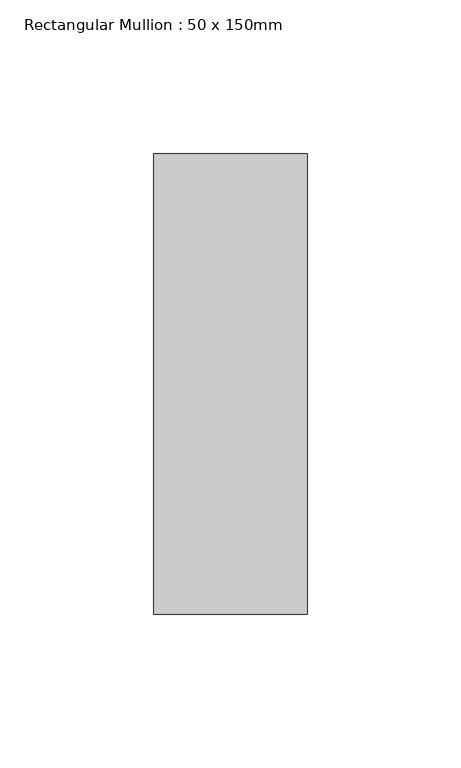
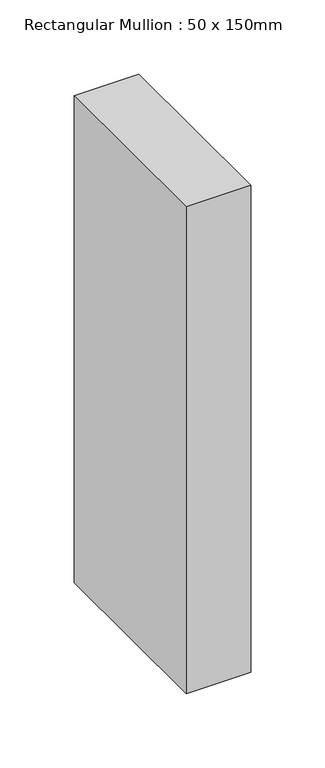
"""IFC4 building model written with IfcOpenShell, lengths in millimetres: member geometry, Rectangular Mullion : 50 x 150mm."""

import ifcopenshell
import ifcopenshell.guid

model = None  # the IFC model being written
_history = None  # IfcOwnerHistory: only IFC2X3 demands one
_inside = {}  # id of a spatial element -> (the spatial element, [elements in it])
_under = {}  # id of a project, library or spatial element -> (it, [spatial elements below it])
_declared = {}  # id of a project -> (the project, [libraries it declares])
_typed = {}  # id of a type object -> (the type object, [elements of that type])
_made_of = {}  # id of a material, layer set ... -> (it, [elements and type objects made of it])


def new_model(schema):
    """Start an empty IFC model of exactly this schema.

    Asked for "IFC4X3", IfcOpenShell would pick the latest addendum, in which some entities
    have other attributes; the version numbers below select the first issue.
    IFC2X3 requires an IfcOwnerHistory on every rooted entity: one is made here for all.
    """
    global model, _history
    if schema == "IFC4X3":
        model = ifcopenshell.file(schema_version=(4, 3, 0, 0))
    else:
        model = ifcopenshell.file(schema=schema)
    _inside.clear()
    _under.clear()
    _declared.clear()
    _typed.clear()
    _made_of.clear()
    _history = None
    if model.schema == "IFC2X3":
        org = make("IfcOrganization", Name="unknown")
        user = make(
            "IfcPersonAndOrganization",
            ThePerson=make("IfcPerson", FamilyName="unknown"),
            TheOrganization=org,
        )
        app = make(
            "IfcApplication",
            ApplicationDeveloper=org,
            Version="unknown",
            ApplicationFullName="unknown",
            ApplicationIdentifier="unknown",
        )
        _history = make(
            "IfcOwnerHistory",
            OwningUser=user,
            OwningApplication=app,
            ChangeAction="ADDED",
            CreationDate=0,
        )
    return model


def make(cls, **values):
    """One entity of the class cls with the attributes given. An attribute that is None is left unset."""
    return model.create_entity(
        cls, **{name: value for name, value in values.items() if value is not None}
    )


def rooted(cls, **values):
    """An entity with a GlobalId (a new one), such as an element, a storey or a relation."""
    return make(cls, GlobalId=ifcopenshell.guid.new(), OwnerHistory=_history, **values)


def si_unit(unit_type, name, prefix=None):
    """IfcSIUnit, for example si_unit("LENGTHUNIT", "METRE", prefix="MILLI")."""
    return make("IfcSIUnit", UnitType=unit_type, Prefix=prefix, Name=name)


def assignment(units):
    """IfcUnitAssignment: the units of a project."""
    return None if units is None else make("IfcUnitAssignment", Units=units)


def point(xyz):
    """IfcCartesianPoint."""
    return None if xyz is None else make("IfcCartesianPoint", Coordinates=xyz)


def direction(xyz):
    """IfcDirection."""
    return None if xyz is None else make("IfcDirection", DirectionRatios=xyz)


def frame(location, z_axis=None, x_axis=None):
    """IfcAxis2Placement3D, a coordinate frame: its origin and axes. An axis left out is left unset."""
    return make(
        "IfcAxis2Placement3D",
        Location=point(location),
        Axis=direction(z_axis),
        RefDirection=direction(x_axis),
    )


def origin():
    """The frame at (0, 0, 0) with its axes left unset."""
    return frame((0.0, 0.0, 0.0))


def place(relative_to, where):
    """IfcLocalPlacement: puts the frame where relative to a parent placement (None: the world)."""
    return make(
        "IfcLocalPlacement", PlacementRelTo=relative_to, RelativePlacement=where
    )


def context(
    kind, dimensions, precision=None, world=None, true_north=None, identifier=None
):
    """IfcGeometricRepresentationContext, for example the 3D "Model" context."""
    return make(
        "IfcGeometricRepresentationContext",
        ContextIdentifier=identifier,
        ContextType=kind,
        CoordinateSpaceDimension=dimensions,
        Precision=precision,
        WorldCoordinateSystem=world,
        TrueNorth=true_north,
    )


def project(units=None, contexts=None):
    """IfcProject with its units and contexts."""
    return rooted(
        "IfcProject",
        Name="project",
        RepresentationContexts=contexts,
        UnitsInContext=assignment(units),
    )


def spatial(cls, under=None, at=None, **own):
    """A site, building, storey or space (cls), placed at a placement, below another one or the project."""
    s = rooted(cls, ObjectPlacement=at, **own)
    if under is not None:
        _under.setdefault(under.id(), (under, []))[1].append(s)
    return s


def polyline(points):
    """IfcPolyline through the points."""
    return make("IfcPolyline", Points=[point(p) for p in points])


def outline(outer, holes=None, kind="AREA"):
    """IfcArbitraryClosedProfileDef: a profile drawn as a closed curve; with holes, ...WithVoids."""
    if holes is None:
        return make("IfcArbitraryClosedProfileDef", ProfileType=kind, OuterCurve=outer)
    return make(
        "IfcArbitraryProfileDefWithVoids",
        ProfileType=kind,
        OuterCurve=outer,
        InnerCurves=holes,
    )


def extrude(swept, where, along, depth):
    """IfcExtrudedAreaSolid: the profile swept, set in the frame where, extruded along a direction by depth."""
    return make(
        "IfcExtrudedAreaSolid",
        SweptArea=swept,
        Position=where,
        ExtrudedDirection=direction(along),
        Depth=depth,
    )


def shape(context_of_items, identifier, shape_type, items):
    """IfcShapeRepresentation: the items that make up one representation, for example the "Body"."""
    return make(
        "IfcShapeRepresentation",
        ContextOfItems=context_of_items,
        RepresentationIdentifier=identifier,
        RepresentationType=shape_type,
        Items=items,
    )


def source(mapping_origin, context_of_items, identifier, shape_type, items):
    """IfcRepresentationMap: a shape defined once, which mapped items show again and again."""
    return make(
        "IfcRepresentationMap",
        MappingOrigin=mapping_origin,
        MappedRepresentation=shape(context_of_items, identifier, shape_type, items),
    )


def transform(
    local_origin,
    x_axis=None,
    y_axis=None,
    z_axis=None,
    scale=None,
    scale2=None,
    scale3=None,
    uniform=True,
):
    """IfcCartesianTransformationOperator3D, or its non-uniform kind. x_axis, y_axis, z_axis: its Axis1, 2, 3."""
    if uniform:
        return make(
            "IfcCartesianTransformationOperator3D",
            Axis1=direction(x_axis),
            Axis2=direction(y_axis),
            LocalOrigin=point(local_origin),
            Scale=scale,
            Axis3=direction(z_axis),
        )
    return make(
        "IfcCartesianTransformationOperator3DnonUniform",
        Axis1=direction(x_axis),
        Axis2=direction(y_axis),
        LocalOrigin=point(local_origin),
        Scale=scale,
        Axis3=direction(z_axis),
        Scale2=scale2,
        Scale3=scale3,
    )


def mapped(mapping_source, mapping_target):
    """IfcMappedItem: shows the shape of a source again, moved by a transform."""
    return make(
        "IfcMappedItem", MappingSource=mapping_source, MappingTarget=mapping_target
    )


def made_of(thing, what):
    """Note that an element or type object is made of a material, layer set ...; save() writes the relation."""
    if what is not None:
        _made_of.setdefault(what.id(), (what, []))[1].append(thing)
    return thing


def element(
    cls,
    number,
    at=None,
    inside=None,
    cuts=None,
    type_object=None,
    material=None,
    context=None,
    identifier="Body",
    shape_type=None,
    held_by="IfcProductDefinitionShape",
    body=None,
    shapes=None,
    **own,
):
    """One element of the class cls, such as IfcWall. Its Tag is "e" and its number.

    at: its placement. inside: the storey or other place that contains it. cuts: it is an
    opening in that element (IfcRelVoidsElement). A single representation is given by context,
    identifier, shape_type and body (its items); several are given by shapes. held_by: the class
    of the entity that holds the representations. save() writes the other relations.
    """
    e = rooted(cls, Tag="e%d" % number, ObjectPlacement=at, **own)
    if body is not None:
        shapes = [shape(context, identifier, shape_type, body)]
    if shapes is not None:
        e.Representation = make(held_by, Representations=shapes)
    if inside is not None:
        _inside.setdefault(inside.id(), (inside, []))[1].append(e)
    if cuts is not None:
        rooted(
            "IfcRelVoidsElement", RelatingBuildingElement=cuts, RelatedOpeningElement=e
        )
    if type_object is not None:
        _typed.setdefault(type_object.id(), (type_object, []))[1].append(e)
    return made_of(e, material)


def aggregate(whole, parts):
    """IfcRelAggregates: a whole, such as a stair, and the parts it consists of."""
    return rooted("IfcRelAggregates", RelatingObject=whole, RelatedObjects=parts)


def save(model, path):
    """Write the relations noted so far, then the file.

    IfcRelAggregates (storeys below a building ...), IfcRelContainedInSpatialStructure (elements
    in a storey), IfcRelDefinesByType, IfcRelAssociatesMaterial and IfcRelDeclares: one each for
    every whole, place, type object, material and project.
    """
    for whole, parts in _under.values():
        aggregate(whole, parts)
    for where, things in _inside.values():
        rooted(
            "IfcRelContainedInSpatialStructure",
            RelatedElements=things,
            RelatingStructure=where,
        )
    for kind, things in _typed.values():
        rooted("IfcRelDefinesByType", RelatedObjects=things, RelatingType=kind)
    for what, things in _made_of.values():
        rooted("IfcRelAssociatesMaterial", RelatedObjects=things, RelatingMaterial=what)
    for by, libraries in _declared.values():
        rooted("IfcRelDeclares", RelatingContext=by, RelatedDefinitions=libraries)
    model.write(path)


def rectangular_mullion_50_x_150mm_8f0e69ec(model_context):
    return source(origin(), model_context, "Body", "SweptSolid", [
        extrude(outline(polyline([(0.0, 75.0), (0.0, -75.0), (-50.0, -75.0), (-50.0, 75.0), (0.0, 75.0)])), frame((0.0, 0.0, -399.2644212), z_axis=(0.0, 0.0, 1.0), x_axis=(1.0, 0.0, 0.0)), (0.0, 0.0, 1.0), 399.2644212),
    ])


if __name__ == "__main__":
    model = new_model("IFC4")
    model_context = context("Model", 3, world=origin())
    ifc_project = project(units=[si_unit("LENGTHUNIT", "METRE", prefix="MILLI")], contexts=[model_context])
    site = spatial("IfcSite", under=ifc_project)
    building = spatial("IfcBuilding", under=site)
    placement = place(None, origin())
    rectangular_mullion_50_x_150mm_shape = rectangular_mullion_50_x_150mm_8f0e69ec(model_context)
    element("IfcMember", 1, ObjectType="Rectangular Mullion : 50 x 150mm", at=placement, inside=building, context=model_context, shape_type="MappedRepresentation", body=[
        mapped(rectangular_mullion_50_x_150mm_shape, transform((0.0, 0.0, 0.0), x_axis=(1.0, 0.0, 0.0), y_axis=(0.0, 1.0, 0.0), z_axis=(0.0, 0.0, 1.0))),
    ])
    save(model, "model.ifc")
